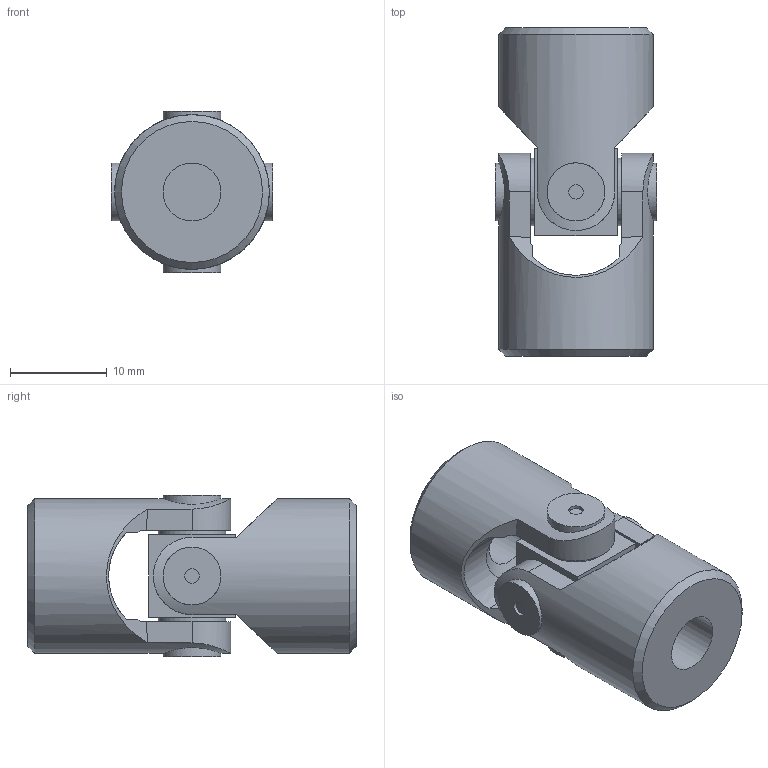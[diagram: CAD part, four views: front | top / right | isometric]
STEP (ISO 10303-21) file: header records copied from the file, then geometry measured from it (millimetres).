
FILE_DESCRIPTION(/* description */ ('EXTENSIBLE TRANSIMISSIONS Series G DIN 808 -2-'),/* implementation_level */ '2;1');
FILE_NAME(/* name */ '\\SRV2016\societa\Stefano\Disegni 3D\Dis. Clienti\0000Catalogo 3D\01Singoli G-GB\SG0S0600.stp',/* time_stamp */ '2021-11-08T12:59:16+01:00',/* author */ ('acquisti'),/* organization */ ('MARIOFERRI'),/* preprocessor_version */ 'ST-DEVELOPER v15.6',/* originating_system */ 'Autodesk Inventor 2015',/* authorisation */ '');
FILE_SCHEMA (('AUTOMOTIVE_DESIGN { 1 0 10303 214 3 1 1 }'));
Length unit declared in the file: millimetre
Products named in the file (3): 01-02G SFE; 01G MOS; Assieme1
Assembly tree (3 placements, depth 2):
  Assieme1
    01-02G SFE
    01G MOS  x2
Bounding box: 16.7 x 34 x 16.7 mm (x, y, z)
Volume: 4906.6 mm3; surface area: 3345.4 mm2
Topology: 3 solids, 3 shells, 72 faces, 176 edges, 120 vertices
Faces by surface type: plane 36, cylinder 22, cone 12, torus 2
Full cylindrical faces by diameter (mm): 1.5 x4, 6 x6, 7 x4, 8.5 x2, 16 x2
Entity records: 1363 total; most frequent: CARTESIAN_POINT 422, DIRECTION 184, ORIENTED_EDGE 160, EDGE_CURVE 80, AXIS2_PLACEMENT_3D 80, EDGE_LOOP 66, VERTEX_POINT 62, FACE_OUTER_BOUND 43
